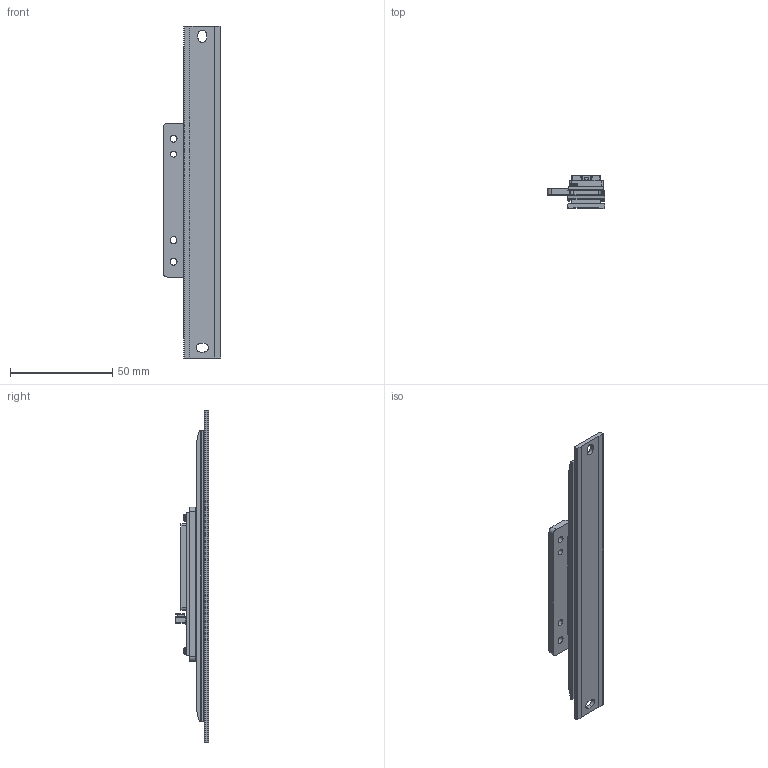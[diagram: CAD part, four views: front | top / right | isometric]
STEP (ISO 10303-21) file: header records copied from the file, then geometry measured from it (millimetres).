
FILE_DESCRIPTION (( 'STEP AP203' ), '1' );
FILE_NAME ('Plošèica+SAS19.STEP', '2025-07-14T08:50:25', ( '' ), ( '' ), 'SwSTEP 2.0', 'SolidWorks 2024', '' );
FILE_SCHEMA (( 'CONFIG_CONTROL_DESIGN' ));
Products named in the file (1): Ploščica+SAS19
Bounding box: 28 x 16.12 x 162 mm (x, y, z)
Surface area: 17159.8 mm2 (no closed solid volume)
Topology: 0 solids, 90 shells, 1682 faces, 4312 edges, 2854 vertices
Faces by surface type: plane 1325, cylinder 162, bspline 137, torus 42, cone 12, sphere 4
Entity records: 57588 total; most frequent: CARTESIAN_POINT 18218, ORIENTED_EDGE 8478, DIRECTION 7123, EDGE_CURVE 4307, VECTOR 3191, LINE 3191, VERTEX_POINT 2854, AXIS2_PLACEMENT_3D 1966
